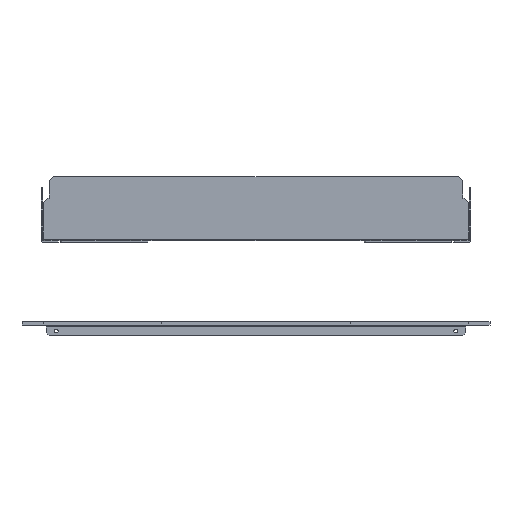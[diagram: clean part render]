
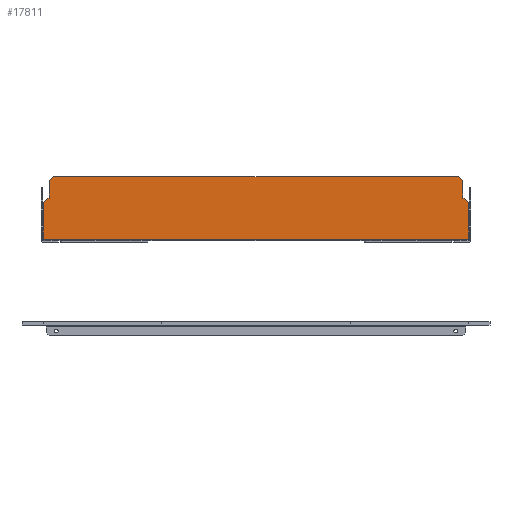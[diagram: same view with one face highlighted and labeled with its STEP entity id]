
A CAD part, front view. The second image highlights one B-rep face of the part: STEP entity #17811.
In plain terms, the highlighted planar face has unit normal (0, -1, 0).
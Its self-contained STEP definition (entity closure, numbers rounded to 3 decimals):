
#15896=CARTESIAN_POINT(' ',(247.5,-1.5,0.6));
#15897=VERTEX_POINT(' ',#15896);
#15911=CARTESIAN_POINT(' ',(247.5,-1.5,0.6));
#15916=DIRECTION(' ',(-1.,0.,0.));
#15921=VECTOR(' ',#15916,1.);
#15926=LINE('',#15911,#15921);
#15931=CARTESIAN_POINT(' ',(-247.5,-1.5,0.6));
#15932=VERTEX_POINT(' ',#15931);
#15936=EDGE_CURVE(' ',#15897,#15932,#15926,.T.);
#16076=CARTESIAN_POINT(' ',(247.5,-1.5,43.5));
#16077=VERTEX_POINT(' ',#16076);
#16091=CARTESIAN_POINT(' ',(247.5,-1.5,43.5));
#16096=DIRECTION(' ',(0.,0.,-1.));
#16101=VECTOR(' ',#16096,1.);
#16106=LINE('',#16091,#16101);
#16111=EDGE_CURVE(' ',#16077,#15897,#16106,.T.);
#16881=CARTESIAN_POINT(' ',(-247.5,-1.5,0.6));
#16886=DIRECTION(' ',(0.,0.,1.));
#16891=VECTOR(' ',#16886,1.);
#16896=LINE('',#16881,#16891);
#16901=CARTESIAN_POINT(' ',(-247.5,-1.5,43.5));
#16902=VERTEX_POINT(' ',#16901);
#16906=EDGE_CURVE(' ',#15932,#16902,#16896,.T.);
#17451=DIRECTION(' ',(0.,-1.,0.));
#17456=CARTESIAN_POINT(' ',(-247.5,-1.5,73.5));
#17461=DIRECTION(' ',(0.,0.,-1.));
#17466=AXIS2_PLACEMENT_3D(' ',#17456,#17451,#17461);
#17471=PLANE('NONE',#17466);
#17476=ORIENTED_EDGE(' ',*,*,#16111,.F.);
#17481=CARTESIAN_POINT(' ',(247.5,-1.5,43.5));
#17486=DIRECTION(' ',(-0.707,0.,0.707));
#17491=VECTOR(' ',#17486,1.);
#17496=LINE('',#17481,#17491);
#17501=CARTESIAN_POINT(' ',(242.5,-1.5,48.5));
#17502=VERTEX_POINT(' ',#17501);
#17506=EDGE_CURVE(' ',#16077,#17502,#17496,.T.);
#17511=ORIENTED_EDGE(' ',*,*,#17506,.T.);
#17516=CARTESIAN_POINT(' ',(240.5,-1.5,48.5));
#17521=DIRECTION(' ',(1.,0.,0.));
#17526=VECTOR(' ',#17521,1.);
#17531=LINE('',#17516,#17526);
#17536=CARTESIAN_POINT(' ',(240.5,-1.5,48.5));
#17537=VERTEX_POINT(' ',#17536);
#17541=EDGE_CURVE(' ',#17537,#17502,#17531,.T.);
#17546=ORIENTED_EDGE(' ',*,*,#17541,.F.);
#17551=CARTESIAN_POINT(' ',(240.5,-1.5,48.5));
#17556=DIRECTION(' ',(0.,0.,1.));
#17561=VECTOR(' ',#17556,1.);
#17566=LINE('',#17551,#17561);
#17571=CARTESIAN_POINT(' ',(240.5,-1.5,68.5));
#17572=VERTEX_POINT(' ',#17571);
#17576=EDGE_CURVE(' ',#17537,#17572,#17566,.T.);
#17581=ORIENTED_EDGE(' ',*,*,#17576,.T.);
#17586=CARTESIAN_POINT(' ',(240.5,-1.5,68.5));
#17591=DIRECTION(' ',(-0.707,0.,0.707));
#17596=VECTOR(' ',#17591,1.);
#17601=LINE('',#17586,#17596);
#17606=CARTESIAN_POINT(' ',(235.5,-1.5,73.5));
#17607=VERTEX_POINT(' ',#17606);
#17611=EDGE_CURVE(' ',#17572,#17607,#17601,.T.);
#17616=ORIENTED_EDGE(' ',*,*,#17611,.T.);
#17621=CARTESIAN_POINT(' ',(235.5,-1.5,73.5));
#17626=DIRECTION(' ',(-1.,0.,0.));
#17631=VECTOR(' ',#17626,1.);
#17636=LINE('',#17621,#17631);
#17641=CARTESIAN_POINT(' ',(-235.5,-1.5,73.5));
#17642=VERTEX_POINT(' ',#17641);
#17646=EDGE_CURVE(' ',#17607,#17642,#17636,.T.);
#17651=ORIENTED_EDGE(' ',*,*,#17646,.T.);
#17656=CARTESIAN_POINT(' ',(-235.5,-1.5,73.5));
#17661=DIRECTION(' ',(-0.707,0.,-0.707));
#17666=VECTOR(' ',#17661,1.);
#17671=LINE('',#17656,#17666);
#17676=CARTESIAN_POINT(' ',(-240.5,-1.5,68.5));
#17677=VERTEX_POINT(' ',#17676);
#17681=EDGE_CURVE(' ',#17642,#17677,#17671,.T.);
#17686=ORIENTED_EDGE(' ',*,*,#17681,.T.);
#17691=CARTESIAN_POINT(' ',(-240.5,-1.5,48.5));
#17696=DIRECTION(' ',(0.,0.,1.));
#17701=VECTOR(' ',#17696,1.);
#17706=LINE('',#17691,#17701);
#17711=CARTESIAN_POINT(' ',(-240.5,-1.5,48.5));
#17712=VERTEX_POINT(' ',#17711);
#17716=EDGE_CURVE(' ',#17712,#17677,#17706,.T.);
#17721=ORIENTED_EDGE(' ',*,*,#17716,.F.);
#17726=CARTESIAN_POINT(' ',(-240.5,-1.5,48.5));
#17731=DIRECTION(' ',(-1.,0.,0.));
#17736=VECTOR(' ',#17731,1.);
#17741=LINE('',#17726,#17736);
#17746=CARTESIAN_POINT(' ',(-242.5,-1.5,48.5));
#17747=VERTEX_POINT(' ',#17746);
#17751=EDGE_CURVE(' ',#17712,#17747,#17741,.T.);
#17756=ORIENTED_EDGE(' ',*,*,#17751,.T.);
#17761=CARTESIAN_POINT(' ',(-242.5,-1.5,48.5));
#17766=DIRECTION(' ',(-0.707,0.,-0.707));
#17771=VECTOR(' ',#17766,1.);
#17776=LINE('',#17761,#17771);
#17781=EDGE_CURVE(' ',#17747,#16902,#17776,.T.);
#17786=ORIENTED_EDGE(' ',*,*,#17781,.T.);
#17791=ORIENTED_EDGE(' ',*,*,#16906,.F.);
#17796=ORIENTED_EDGE(' ',*,*,#15936,.F.);
#17801=EDGE_LOOP(' ',(#17476,#17511,#17546,#17581,#17616,#17651,#17686,#17721,#17756,#17786,#17791,#17796));
#17806=FACE_OUTER_BOUND(' ',#17801,.T.);
#17811=ADVANCED_FACE('NONE',(#17806),#17471,.T.);
